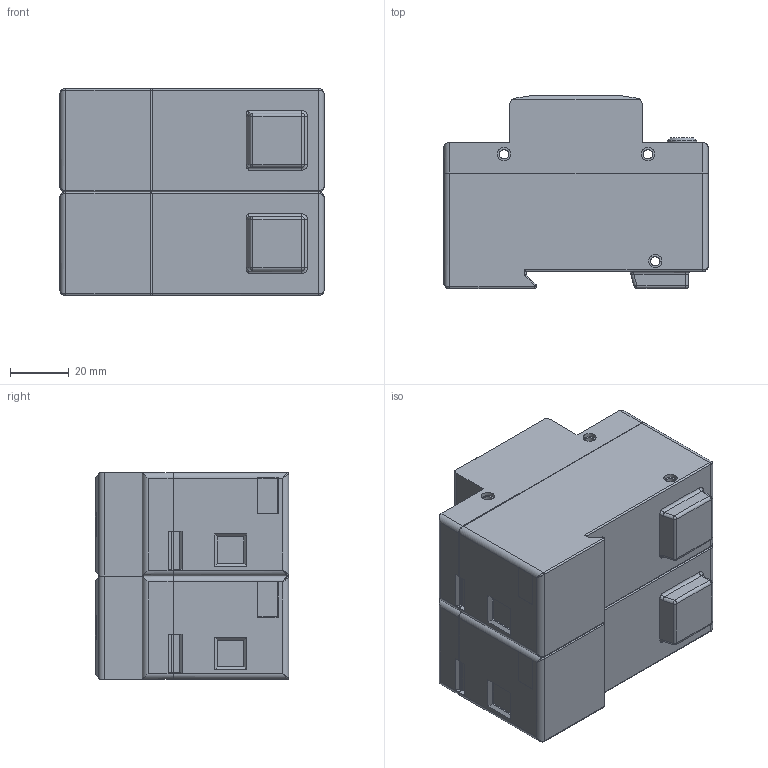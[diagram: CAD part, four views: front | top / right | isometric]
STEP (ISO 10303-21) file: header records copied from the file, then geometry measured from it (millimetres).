
FILE_DESCRIPTION(/* description */ (''),/* implementation_level */ '2;1');
FILE_NAME(/* name */ 'K:\PROJEKTY ROZPRACOVANÉ\MODELY DO KATALOGU\HLSA25, HLSA25G, HLA\3D - STEP\H25 2+0.stp',/* time_stamp */ '2020-03-24T07:22:10+01:00',/* author */ ('M Koliska'),/* organization */ (''),/* preprocessor_version */ 'ST-DEVELOPER v18',/* originating_system */ 'Autodesk Inventor 2020',/* authorisation */ '');
FILE_SCHEMA (('AUTOMOTIVE_DESIGN { 1 0 10303 214 3 1 1 }'));
Length unit declared in the file: millimetre
Products named in the file (6): HLSA25_2+0; HLSA25; HLSA25_1; HLSA25 (N1); HLSA25 (N1)_1; DIN 7985 (H) - M6x10-H
Assembly tree (9 placements, depth 3):
  HLSA25_2+0
    HLSA25
      HLSA25_1
      DIN 7985 (H) - M6x10-H  x3
    HLSA25 (N1)
      HLSA25 (N1)_1
      DIN 7985 (H) - M6x10-H  x2
Bounding box: 90 x 65.8 x 70.4 mm (x, y, z)
Volume: 341392.5 mm3; surface area: 49835.7 mm2
Topology: 7 solids, 7 shells, 628 faces, 1633 edges, 1054 vertices
Faces by surface type: plane 395, cylinder 114, cone 81, sphere 17, bspline 12, torus 9
Full cylindrical faces by diameter (mm): 3.2 x6, 4.5 x12, 5.5 x5, 6 x5, 7.5 x5, 10 x1
Entity records: 14677 total; most frequent: CARTESIAN_POINT 2866, DIRECTION 2419, ORIENTED_EDGE 2394, EDGE_CURVE 1197, LINE 885, VECTOR 885, AXIS2_PLACEMENT_3D 767, VERTEX_POINT 766
